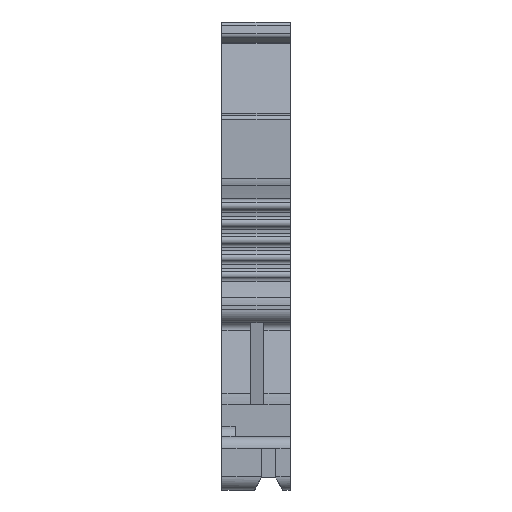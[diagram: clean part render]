
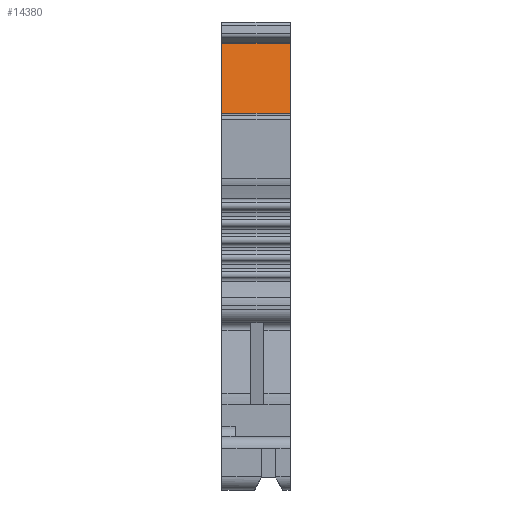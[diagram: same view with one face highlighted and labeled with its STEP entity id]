
A CAD part, left-side view. The second image highlights one B-rep face of the part: STEP entity #14380.
In plain terms, the highlighted planar face has unit normal (-0.985, 0, 0.174).
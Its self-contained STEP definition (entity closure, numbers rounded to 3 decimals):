
#1269=DIRECTION('',(-0.174,0.,-0.985));
#1270=VECTOR('',#1269,5.9);
#1271=CARTESIAN_POINT('',(-56.087,0.,
-1.506));
#1272=LINE('',#1271,#1270);
#1707=DIRECTION('',(0.,-1.,0.));
#1708=VECTOR('',#1707,5.15);
#1709=CARTESIAN_POINT('',(-57.111,0.,
-7.317));
#1710=LINE('',#1709,#1708);
#1719=DIRECTION('',(0.,1.,0.));
#1720=VECTOR('',#1719,5.15);
#1721=CARTESIAN_POINT('',(-56.087,-5.15,
-1.506));
#1722=LINE('',#1721,#1720);
#3070=DIRECTION('',(0.174,0.,0.985));
#3071=VECTOR('',#3070,5.9);
#3072=CARTESIAN_POINT('',(-57.111,-5.15,
-7.317));
#3073=LINE('',#3072,#3071);
#10206=CARTESIAN_POINT('',(-56.087,0.,
-1.506));
#10207=VERTEX_POINT('',#10206);
#10208=CARTESIAN_POINT('',(-57.111,0.,
-7.317));
#10209=VERTEX_POINT('',#10208);
#10635=CARTESIAN_POINT('',(-57.111,-5.15,
-7.317));
#10636=VERTEX_POINT('',#10635);
#10637=CARTESIAN_POINT('',(-56.087,-5.15,
-1.506));
#10638=VERTEX_POINT('',#10637);
#14367=CARTESIAN_POINT('',(-56.035,-5.308,
-1.216));
#14368=DIRECTION('',(0.985,0.,-0.174));
#14369=DIRECTION('',(-0.174,0.,-0.985));
#14370=AXIS2_PLACEMENT_3D('',#14367,#14368,#14369);
#14371=PLANE('',#14370);
#14372=ORIENTED_EDGE('',*,*,#13622,.F.);
#14374=ORIENTED_EDGE('',*,*,#14373,.F.);
#14376=ORIENTED_EDGE('',*,*,#14375,.F.);
#14377=ORIENTED_EDGE('',*,*,#14359,.F.);
#14378=EDGE_LOOP('',(#14372,#14374,#14376,#14377));
#14379=FACE_OUTER_BOUND('',#14378,.F.);
#14380=ADVANCED_FACE('',(#14379),#14371,.F.);
#13622=EDGE_CURVE('',#10207,#10209,#1272,.T.);
#14359=EDGE_CURVE('',#10209,#10636,#1710,.T.);
#14373=EDGE_CURVE('',#10638,#10207,#1722,.T.);
#14375=EDGE_CURVE('',#10636,#10638,#3073,.T.);
